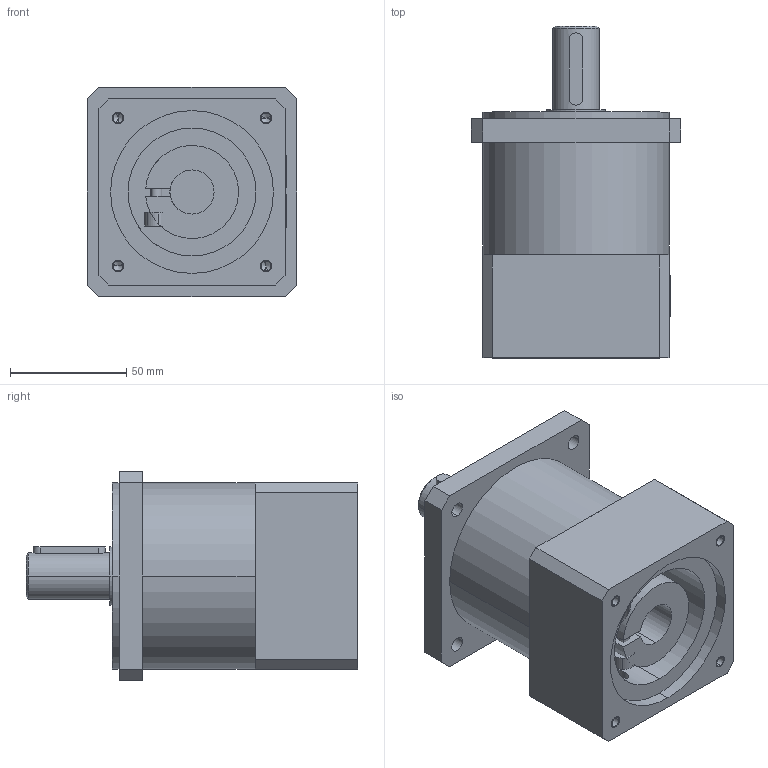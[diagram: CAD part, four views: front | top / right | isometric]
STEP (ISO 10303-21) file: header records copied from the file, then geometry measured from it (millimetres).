
FILE_DESCRIPTION((''),'2;1');
FILE_NAME('PF80L1_ASM','2014-12-27T',('Administrator'),(''),'PRO/ENGINEER BY PARAMETRIC TECHNOLOGY CORPORATION, 2013430','PRO/ENGINEER BY PARAMETRIC TECHNOLOGY CORPORATION, 2013430','');
FILE_SCHEMA(('CONFIG_CONTROL_DESIGN'));
Length unit declared in the file: millimetre
Products named in the file (6): ZHU; XINATI80L1; LIANZHU; LUOSI; FLAND; PF80L1_ASM
Assembly tree (5 placements, depth 2):
  PF80L1_ASM
    ZHU
    XINATI80L1
    LIANZHU
    LUOSI
    FLAND
Bounding box: 90 x 142.7 x 90 mm (x, y, z)
Volume: 543296.2 mm3; surface area: 86857.5 mm2
Topology: 5 solids, 10 shells, 136 faces, 337 edges, 219 vertices
Faces by surface type: plane 69, cylinder 55, cone 12
Entity records: 4288 total; most frequent: CARTESIAN_POINT 810, DIRECTION 743, ORIENTED_EDGE 634, EDGE_CURVE 327, AXIS2_PLACEMENT_3D 271, VERTEX_POINT 219, VECTOR 201, LINE 201
